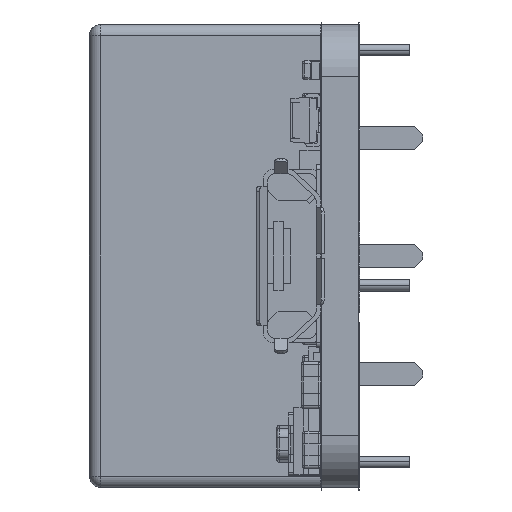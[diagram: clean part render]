
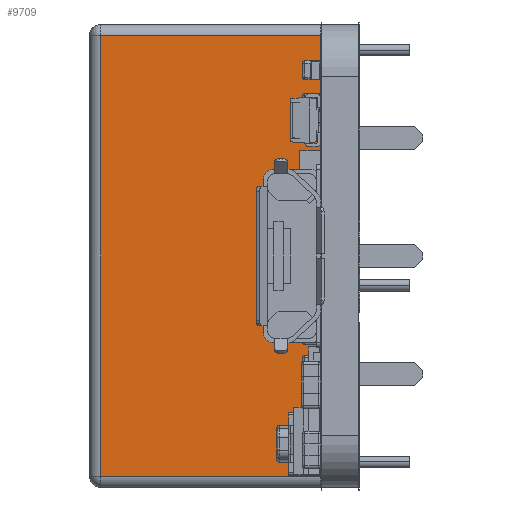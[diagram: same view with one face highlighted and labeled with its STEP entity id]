
A CAD part, left-side view. The second image highlights one B-rep face of the part: STEP entity #9709.
In plain terms, the highlighted planar face has unit normal (-1, 0, 0) as drawn and (0, 0, -1) by its records, which use the part's own axes.
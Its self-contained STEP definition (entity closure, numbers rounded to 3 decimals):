
#9709 = ADVANCED_FACE ( 'NONE', ( #172054 ), #173348, .F. ) ;
#12026 = CARTESIAN_POINT ( 'NONE',  ( -10., 0., -5. ) ) ;
#12030 = DIRECTION ( 'NONE',  ( -1., 0., 0. ) ) ;
#12276 = CARTESIAN_POINT ( 'NONE',  ( -9.5, 10., -5. ) ) ;
#12280 = DIRECTION ( 'NONE',  ( 0., 1., 0. ) ) ;
#12286 = CARTESIAN_POINT ( 'NONE',  ( 10., 9.5, -5. ) ) ;
#12289 = DIRECTION ( 'NONE',  ( 1., 0., 0. ) ) ;
#12296 = CARTESIAN_POINT ( 'NONE',  ( 9.5, 10., -5. ) ) ;
#12300 = DIRECTION ( 'NONE',  ( 0., -1., 0. ) ) ;
#17151 = CARTESIAN_POINT ( 'NONE',  ( -9.5, 0., -5. ) ) ;
#17154 = CARTESIAN_POINT ( 'NONE',  ( 9.5, 0., -5. ) ) ;
#17189 = CARTESIAN_POINT ( 'NONE',  ( -9.5, 9.5, -5. ) ) ;
#17192 = CARTESIAN_POINT ( 'NONE',  ( 9.5, 9.5, -5. ) ) ;
#23110 = LINE ( 'NONE', #12026, #23116 ) ;
#23116 = VECTOR ( 'NONE', #12030, 1000. ) ;
#23220 = LINE ( 'NONE', #12276, #23222 ) ;
#23222 = VECTOR ( 'NONE', #12280, 1000. ) ;
#23224 = LINE ( 'NONE', #12286, #23227 ) ;
#23227 = VECTOR ( 'NONE', #12289, 1000. ) ;
#23230 = LINE ( 'NONE', #12296, #23233 ) ;
#23233 = VECTOR ( 'NONE', #12300, 1000. ) ;
#66349 = AXIS2_PLACEMENT_3D ( 'NONE', #173349, #173350, #173351 ) ;
#87377 = EDGE_CURVE ( 'NONE', #210660, #210659, #23110, .T. ) ;
#87425 = EDGE_CURVE ( 'NONE', #210659, #210673, #23220, .T. ) ;
#87428 = EDGE_CURVE ( 'NONE', #210673, #210674, #23224, .T. ) ;
#87430 = EDGE_CURVE ( 'NONE', #210674, #210660, #23230, .T. ) ;
#172054 = FACE_OUTER_BOUND ( 'NONE', #196725, .T. ) ;
#173348 = PLANE ( 'NONE',  #66349 ) ;
#173349 = CARTESIAN_POINT ( 'NONE',  ( -10., 10., -5. ) ) ;
#173350 = DIRECTION ( 'NONE',  ( 0., 0., 1. ) ) ;
#173351 = DIRECTION ( 'NONE',  ( 1., 0., 0. ) ) ;
#178861 = ORIENTED_EDGE ( 'NONE', *, *, #87377, .T. ) ;
#178863 = ORIENTED_EDGE ( 'NONE', *, *, #87425, .T. ) ;
#178864 = ORIENTED_EDGE ( 'NONE', *, *, #87428, .T. ) ;
#178865 = ORIENTED_EDGE ( 'NONE', *, *, #87430, .T. ) ;
#196725 = EDGE_LOOP ( 'NONE', ( #178861, #178863, #178864, #178865 ) ) ;
#210659 = VERTEX_POINT ( 'NONE', #17151 ) ;
#210660 = VERTEX_POINT ( 'NONE', #17154 ) ;
#210673 = VERTEX_POINT ( 'NONE', #17189 ) ;
#210674 = VERTEX_POINT ( 'NONE', #17192 ) ;
